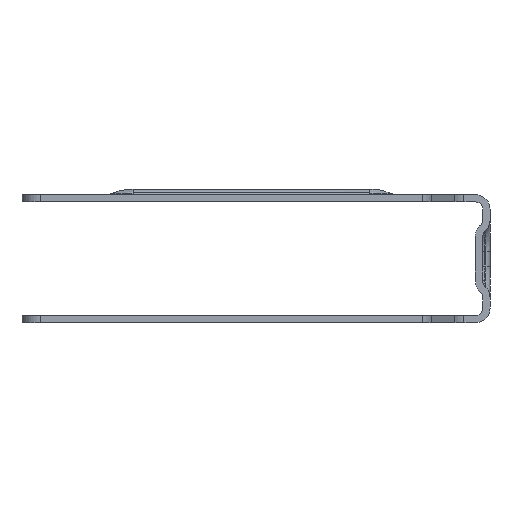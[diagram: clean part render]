
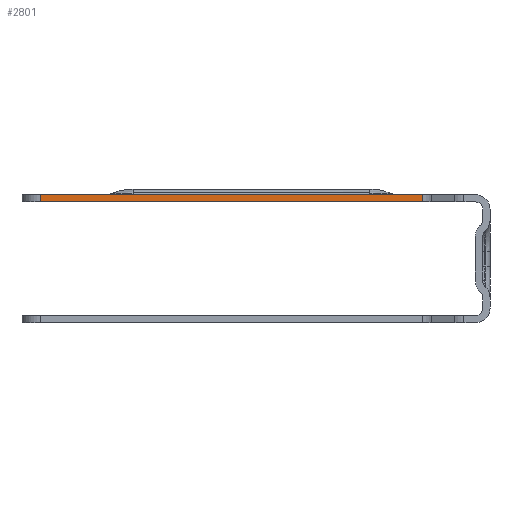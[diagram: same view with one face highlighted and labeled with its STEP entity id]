
A CAD part, front view. The second image highlights one B-rep face of the part: STEP entity #2801.
In plain terms, the highlighted planar face has unit normal (0, -1, 0).
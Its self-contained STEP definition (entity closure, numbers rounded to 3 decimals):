
#2754=VECTOR('Line Direction',#2753,1.) ;
#2778=VECTOR('Line Direction',#2777,1.) ;
#2785=VECTOR('Line Direction',#2784,1.) ;
#2792=VECTOR('Line Direction',#2791,1.) ;
#2753=DIRECTION('Vector Direction',(0.,0.,1.)) ;
#2772=DIRECTION('Axis2P3D Direction',(0.,-1.,0.)) ;
#2773=DIRECTION('Axis2P3D XDirection',(1.,0.,0.)) ;
#2777=DIRECTION('Vector Direction',(1.,0.,0.)) ;
#2784=DIRECTION('Vector Direction',(0.,0.,1.)) ;
#2791=DIRECTION('Vector Direction',(1.,0.,0.)) ;
#2749=CARTESIAN_POINT('Vertex',(183.497,-127.5,-108.4)) ;
#2752=CARTESIAN_POINT('Line Origine',(183.497,-127.5,-110.)) ;
#2756=CARTESIAN_POINT('Vertex',(183.497,-127.5,-110.4)) ;
#2771=CARTESIAN_POINT('Axis2P3D Location',(128.699,-127.5,-109.)) ;
#2776=CARTESIAN_POINT('Line Origine',(130.998,-127.5,-108.4)) ;
#2780=CARTESIAN_POINT('Vertex',(78.5,-127.5,-108.4)) ;
#2783=CARTESIAN_POINT('Line Origine',(78.5,-127.5,-109.4)) ;
#2787=CARTESIAN_POINT('Vertex',(78.5,-127.5,-110.4)) ;
#2790=CARTESIAN_POINT('Line Origine',(130.998,-127.5,-110.4)) ;
#2774=AXIS2_PLACEMENT_3D('Plane Axis2P3D',#2771,#2772,#2773) ;
#2758=EDGE_CURVE('',#2757,#2750,#2755,.T.) ;
#2782=EDGE_CURVE('',#2750,#2781,#2779,.F.) ;
#2789=EDGE_CURVE('',#2781,#2788,#2786,.F.) ;
#2794=EDGE_CURVE('',#2788,#2757,#2793,.T.) ;
#2775=PLANE('Plane',#2774) ;
#2796=ORIENTED_EDGE('',*,*,#2758,.T.) ;
#2797=ORIENTED_EDGE('',*,*,#2782,.T.) ;
#2798=ORIENTED_EDGE('',*,*,#2789,.T.) ;
#2799=ORIENTED_EDGE('',*,*,#2794,.T.) ;
#2755=LINE('Line',#2752,#2754) ;
#2779=LINE('Line',#2776,#2778) ;
#2786=LINE('Line',#2783,#2785) ;
#2793=LINE('Line',#2790,#2792) ;
#2801=ADVANCED_FACE('\X2\96F64EF651E04F554F53\X0\',(#2800),#2775,.T.) ;
#2750=VERTEX_POINT('',#2749) ;
#2757=VERTEX_POINT('',#2756) ;
#2781=VERTEX_POINT('',#2780) ;
#2788=VERTEX_POINT('',#2787) ;
#2795=EDGE_LOOP('',(#2796,#2797,#2798,#2799)) ;
#2800=FACE_OUTER_BOUND('',#2795,.T.) ;
